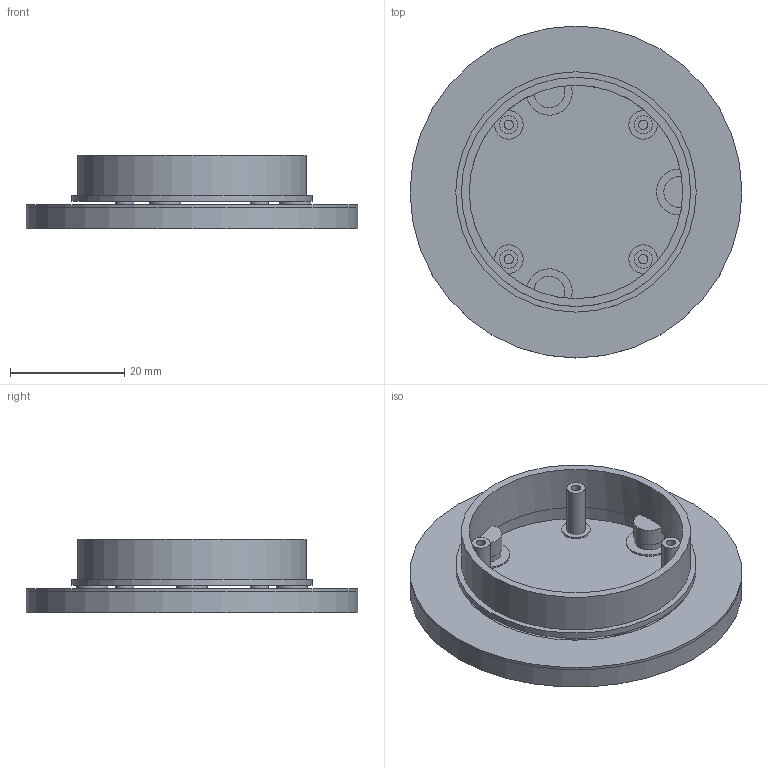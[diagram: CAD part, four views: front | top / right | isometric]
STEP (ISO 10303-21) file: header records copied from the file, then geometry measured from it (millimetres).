
FILE_DESCRIPTION(('Open CASCADE Model'),'2;1');
FILE_NAME('Open CASCADE Shape Model','2026-11-13T04:59:58',('Author'),( 'Open CASCADE'),'Open CASCADE STEP processor 7.9','Open CASCADE 7.9' ,'Unknown');
FILE_SCHEMA(('AUTOMOTIVE_DESIGN { 1 0 10303 214 1 1 1 1 }'));
Length unit declared in the file: millimetre
Products named in the file (1): Open CASCADE STEP translator 7.9 1
Bounding box: 58 x 58 x 12.9 mm (x, y, z)
Volume: 7309.3 mm3; surface area: 10852.2 mm2
Topology: 1 solids, 1 shells, 126 faces, 261 edges, 167 vertices
Faces by surface type: cylinder 56, plane 50, cone 20
Full cylindrical faces by diameter (mm): 1.6 x4, 3.2 x4, 5 x7, 5.4 x3, 6.4 x20, 37.3 x1, 40.05 x1, 41.4 x1, 42 x1, 58 x2
Entity records: 6935 total; most frequent: CARTESIAN_POINT 1477, DIRECTION 1084, ORIENTED_EDGE 522, PCURVE 522, DEFINITIONAL_REPRESENTATION 522, LINE 406, VECTOR 406, AXIS2_PLACEMENT_3D 294
